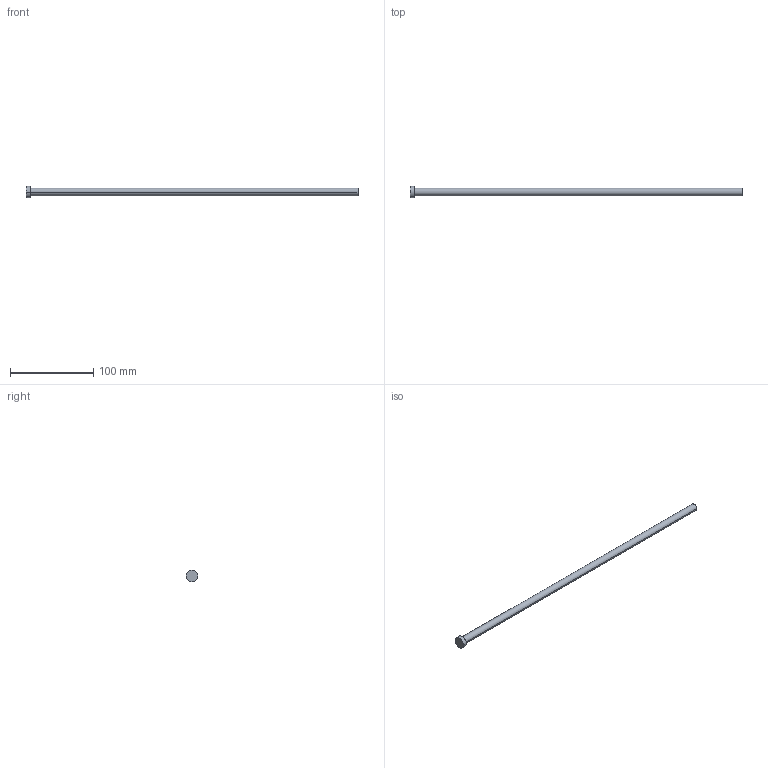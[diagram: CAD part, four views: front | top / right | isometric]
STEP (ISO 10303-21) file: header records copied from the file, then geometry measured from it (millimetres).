
FILE_DESCRIPTION (( 'STEP AP214' ), '1' );
FILE_NAME ('A-9x400.STEP', '2020-05-29T15:57:17', ( 'August' ), ( '' ), 'SwSTEP 2.0', 'SolidWorks 2018', '' );
FILE_SCHEMA (( 'AUTOMOTIVE_DESIGN' ));
Length unit declared in the file: millimetre
Products named in the file (1): A-9x400
Bounding box: 400 x 14 x 14 mm (x, y, z)
Volume: 25900.1 mm3; surface area: 11690.2 mm2
Topology: 1 solids, 1 shells, 9 faces, 16 edges, 10 vertices
Faces by surface type: cylinder 4, plane 3, torus 2
Entity records: 260 total; most frequent: DIRECTION 48, CARTESIAN_POINT 36, ORIENTED_EDGE 32, AXIS2_PLACEMENT_3D 22, EDGE_CURVE 16, CIRCLE 12, EDGE_LOOP 10, VERTEX_POINT 10
